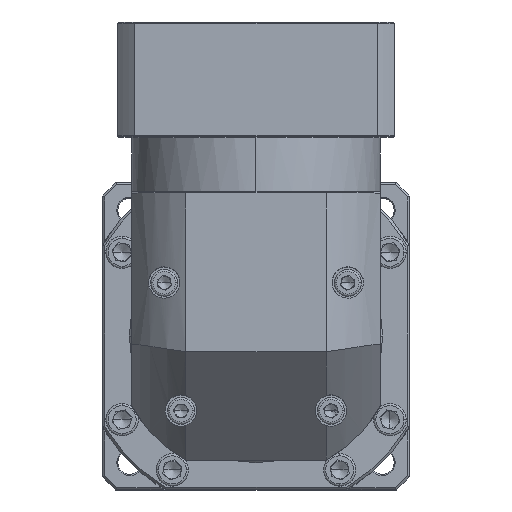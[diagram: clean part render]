
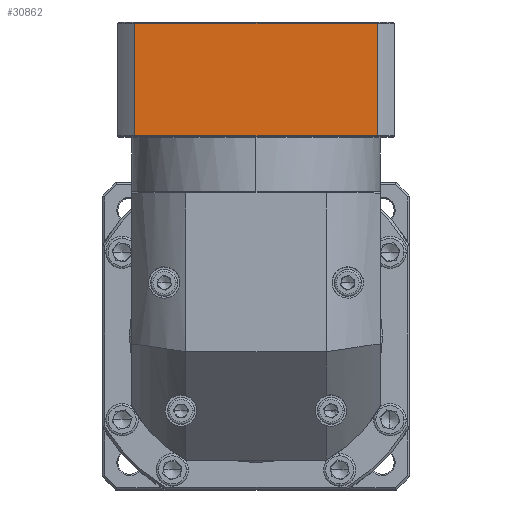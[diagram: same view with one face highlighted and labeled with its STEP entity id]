
A CAD part, top view. The second image highlights one B-rep face of the part: STEP entity #30862.
In plain terms, the highlighted planar face has unit normal (0, 0, 1).
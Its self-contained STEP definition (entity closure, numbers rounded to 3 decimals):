
#3474 = CARTESIAN_POINT ( 'NONE',  ( -76.259, 236.154, 81.956 ) ) ;
#7260 = EDGE_CURVE ( 'NONE', #73201, #77557, #55951, .T. ) ;
#11377 = ORIENTED_EDGE ( 'NONE', *, *, #95052, .F. ) ;
#19303 = DIRECTION ( 'NONE',  ( -1., 0., 0. ) ) ;
#22113 = VECTOR ( 'NONE', #134351, 1000. ) ;
#23026 = VECTOR ( 'NONE', #108483, 1000. ) ;
#27369 = FACE_OUTER_BOUND ( 'NONE', #145092, .T. ) ;
#30862 = ADVANCED_FACE ( 'NONE', ( #27369 ), #111500, .F. ) ;
#37248 = CARTESIAN_POINT ( 'NONE',  ( -188.134, -59.167, 81.956 ) ) ;
#38681 = ORIENTED_EDGE ( 'NONE', *, *, #7260, .F. ) ;
#40283 = CARTESIAN_POINT ( 'NONE',  ( -76.259, -59.167, 81.956 ) ) ;
#41433 = LINE ( 'NONE', #87448, #75267 ) ;
#41802 = AXIS2_PLACEMENT_3D ( 'NONE', #76156, #88080, #53794 ) ;
#42338 = EDGE_CURVE ( 'NONE', #83008, #126892, #41433, .T. ) ;
#42568 = LINE ( 'NONE', #40283, #23026 ) ;
#53794 = DIRECTION ( 'NONE',  ( 1., 0., 0. ) ) ;
#55951 = LINE ( 'NONE', #123889, #22113 ) ;
#58333 = CARTESIAN_POINT ( 'NONE',  ( -188.134, 184.154, 81.956 ) ) ;
#63240 = CARTESIAN_POINT ( 'NONE',  ( -76.259, 184.154, 81.956 ) ) ;
#71166 = ORIENTED_EDGE ( 'NONE', *, *, #127363, .F. ) ;
#72385 = CARTESIAN_POINT ( 'NONE',  ( -188.134, 236.154, 81.956 ) ) ;
#73201 = VERTEX_POINT ( 'NONE', #72385 ) ;
#75267 = VECTOR ( 'NONE', #19303, 1000. ) ;
#76156 = CARTESIAN_POINT ( 'NONE',  ( -196.197, 236.654, 81.956 ) ) ;
#76692 = VECTOR ( 'NONE', #138778, 1000. ) ;
#77557 = VERTEX_POINT ( 'NONE', #3474 ) ;
#83008 = VERTEX_POINT ( 'NONE', #63240 ) ;
#87448 = CARTESIAN_POINT ( 'NONE',  ( -196.197, 184.154, 81.956 ) ) ;
#88080 = DIRECTION ( 'NONE',  ( 0., 0., -1. ) ) ;
#89102 = LINE ( 'NONE', #37248, #76692 ) ;
#95052 = EDGE_CURVE ( 'NONE', #77557, #83008, #42568, .T. ) ;
#108483 = DIRECTION ( 'NONE',  ( 0., -1., 0. ) ) ;
#111500 = PLANE ( 'NONE',  #41802 ) ;
#123889 = CARTESIAN_POINT ( 'NONE',  ( -196.197, 236.154, 81.956 ) ) ;
#126892 = VERTEX_POINT ( 'NONE', #58333 ) ;
#127363 = EDGE_CURVE ( 'NONE', #126892, #73201, #89102, .T. ) ;
#134351 = DIRECTION ( 'NONE',  ( 1., 0., 0. ) ) ;
#136395 = ORIENTED_EDGE ( 'NONE', *, *, #42338, .F. ) ;
#138778 = DIRECTION ( 'NONE',  ( 0., 1., 0. ) ) ;
#145092 = EDGE_LOOP ( 'NONE', ( #71166, #136395, #11377, #38681 ) ) ;
